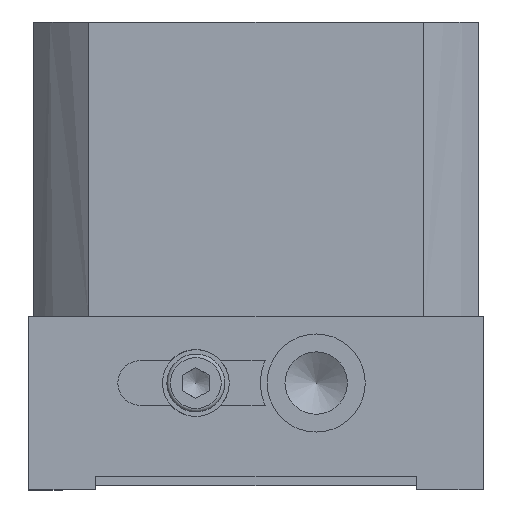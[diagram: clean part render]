
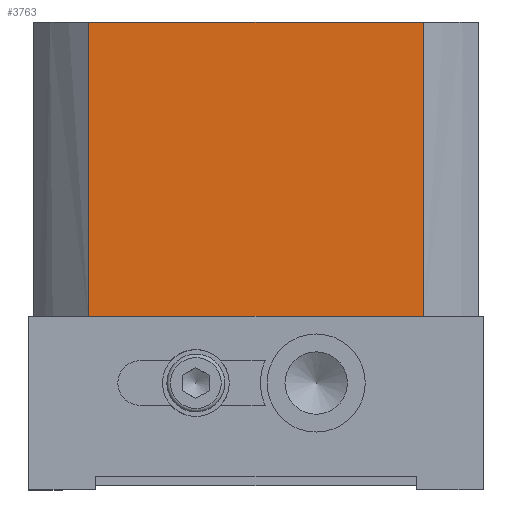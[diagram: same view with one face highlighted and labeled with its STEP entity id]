
A CAD part, left-side view. The second image highlights one B-rep face of the part: STEP entity #3763.
In plain terms, the highlighted planar face has unit normal (-1, 0, 0).
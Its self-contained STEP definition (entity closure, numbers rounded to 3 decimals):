
#3634=CARTESIAN_POINT('',(-50.0,87.5,-66.));
#3635=VERTEX_POINT('',#3634);
#3648=CARTESIAN_POINT('',(-50.0,12.5,-66.));
#3649=VERTEX_POINT('',#3648);
#3657=CARTESIAN_POINT('',(-50.0,87.5,-66.));
#3658=DIRECTION('',(0.0,-1.0,0.0));
#3659=VECTOR('',#3658,75.0);
#3660=LINE('',#3657,#3659);
#3661=EDGE_CURVE('',#3635,#3649,#3660,.T.);
#3679=CARTESIAN_POINT('',(-50.0,87.5,0.0));
#3680=VERTEX_POINT('',#3679);
#3681=CARTESIAN_POINT('',(-50.0,87.5,0.0));
#3682=DIRECTION('',(0.0,0.0,-1.0));
#3683=VECTOR('',#3682,66.);
#3684=LINE('',#3681,#3683);
#3685=EDGE_CURVE('',#3680,#3635,#3684,.T.);
#3740=CARTESIAN_POINT('',(-50.0,87.5,0.0));
#3741=DIRECTION('',(-1.0,0.0,0.0));
#3742=DIRECTION('',(0.0,0.0,1.0));
#3743=AXIS2_PLACEMENT_3D('',#3740,#3741,#3742);
#3744=PLANE('',#3743);
#3745=ORIENTED_EDGE('',*,*,#3661,.T.);
#3746=CARTESIAN_POINT('',(-50.0,12.5,0.0));
#3747=VERTEX_POINT('',#3746);
#3748=CARTESIAN_POINT('',(-50.0,12.5,0.0));
#3749=DIRECTION('',(0.0,0.0,-1.0));
#3750=VECTOR('',#3749,66.);
#3751=LINE('',#3748,#3750);
#3752=EDGE_CURVE('',#3747,#3649,#3751,.T.);
#3753=ORIENTED_EDGE('',*,*,#3752,.F.);
#3754=CARTESIAN_POINT('',(-50.0,87.5,0.0));
#3755=DIRECTION('',(0.0,-1.0,0.0));
#3756=VECTOR('',#3755,75.0);
#3757=LINE('',#3754,#3756);
#3758=EDGE_CURVE('',#3680,#3747,#3757,.T.);
#3759=ORIENTED_EDGE('',*,*,#3758,.F.);
#3760=ORIENTED_EDGE('',*,*,#3685,.T.);
#3761=EDGE_LOOP('',(#3745,#3753,#3759,#3760));
#3762=FACE_OUTER_BOUND('',#3761,.T.);
#3763=ADVANCED_FACE('',(#3762),#3744,.T.);
